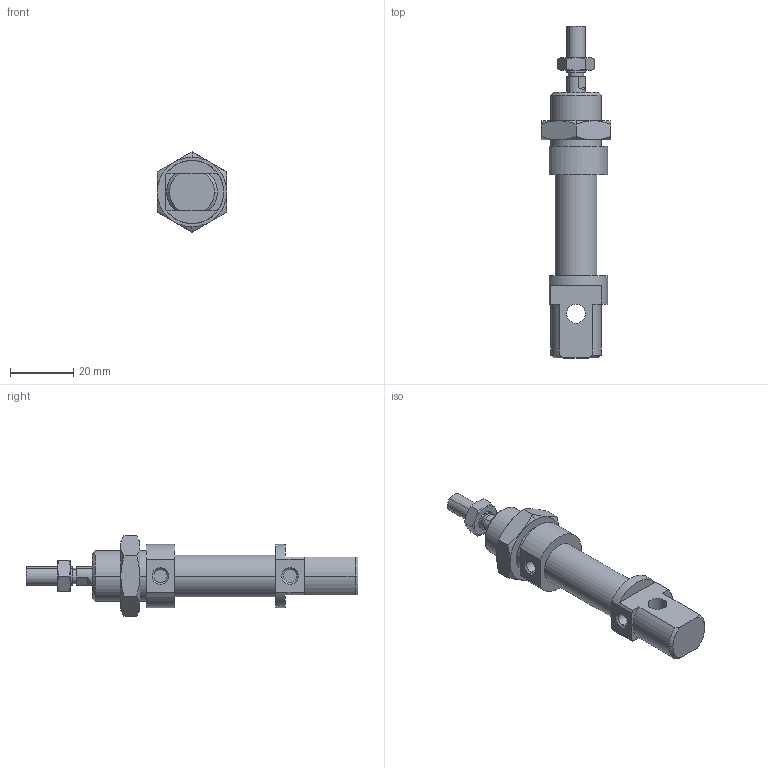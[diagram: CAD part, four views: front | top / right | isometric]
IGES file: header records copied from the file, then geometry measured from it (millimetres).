
Global section: file name: No Iges File Name specified; native system: AutoDesk Inventor R6.0; preprocessor: AutoDesk Inventor Iges Exporter R6.0; author: No Author specified; organization: No Organization specified; date: 20030407.190952; units: millimetre
Bounding box: 22 x 105 x 25.4 mm (x, y, z)
Volume: 17431.3 mm3; surface area: 8205.3 mm2
Topology: 4 solids, 4 shells, 121 faces, 268 edges, 162 vertices
Faces by surface type: plane 39, cone 38, bspline 20, cylinder 18, revolution 6
